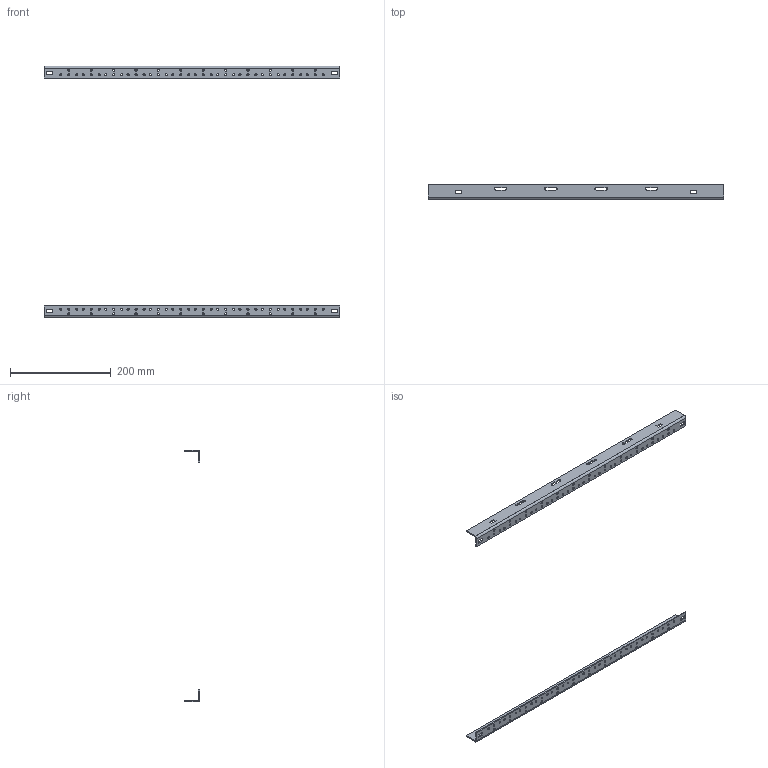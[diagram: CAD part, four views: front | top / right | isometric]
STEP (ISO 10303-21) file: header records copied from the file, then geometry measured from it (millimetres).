
FILE_DESCRIPTION (( 'STEP AP203' ), '1' );
FILE_NAME ('ewmr24t.STEP', '2020-08-12T19:33:31', ( '' ), ( '' ), 'SwSTEP 2.0', 'SolidWorks 2016', '' );
FILE_SCHEMA (( 'CONFIG_CONTROL_DESIGN' ));
Length unit declared in the file: inch
Products named in the file (2): 89072121_87931339; ewmr24t
Assembly tree (2 placements, depth 2):
  ewmr24t
    89072121_87931339  x2
Bounding box: 587.34 x 30 x 500.14 mm (x, y, z)
Volume: 137309.9 mm3; surface area: 122668.7 mm2
Topology: 2 solids, 2 shells, 284 faces, 824 edges, 544 vertices
Faces by surface type: cylinder 212, plane 72
Entity records: 5240 total; most frequent: DIRECTION 918, CARTESIAN_POINT 831, ORIENTED_EDGE 824, EDGE_CURVE 412, AXIS2_PLACEMENT_3D 359, VERTEX_POINT 272, EDGE_LOOP 254, CIRCLE 212
